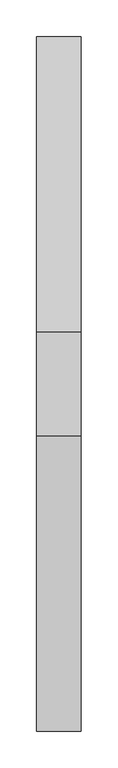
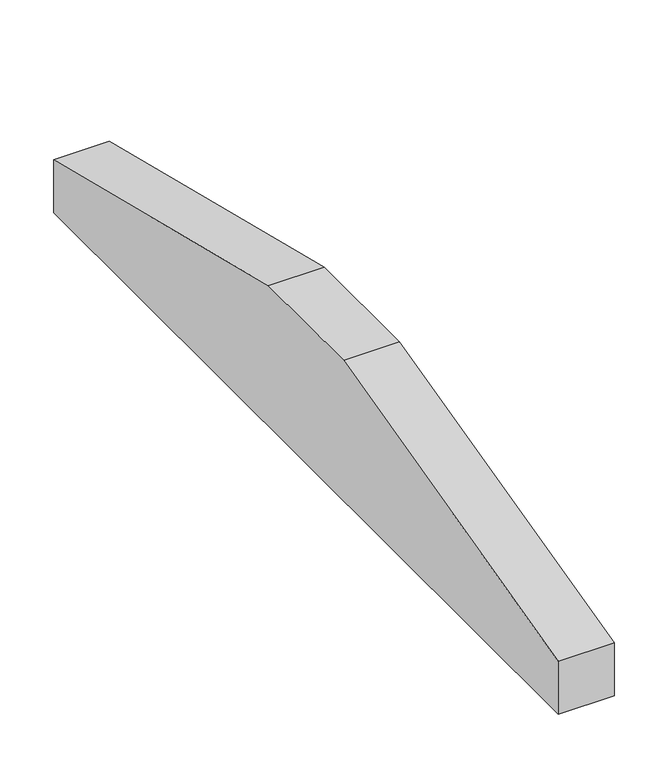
"""IFC4 building model written with IfcOpenShell, lengths in millimetres: proxy geometry, Modelos genéricos 171 : Modelos genéricos 144."""

from ifc_helpers import new_model, si_unit, frame, origin, place, context, project, spatial, polyline, outline, extrude, source, transform, mapped, element, save


def generic_models_1498e869(model_context):
    return source(origin(), model_context, "Body", "SweptSolid", [
        extrude(outline(polyline([(2018.6238165, 4209.7515316), (2418.6238165, 4110.0203305), (2418.6238165, 4049.7515316), (1478.6238165, 4049.7515316), (1478.6238165, 4110.0203305), (1878.6238165, 4209.7515316), (2018.6238165, 4209.7515316)])), frame((66163.4472467, 0.0, 0.0), z_axis=(1.0, 0.0, 0.0), x_axis=(0.0, 1.0, 0.0)), (0.0, 0.0, 1.0), 60.0),
    ])


if __name__ == "__main__":
    model = new_model("IFC4")
    model_context = context("Model", 3, world=origin())
    ifc_project = project(units=[si_unit("LENGTHUNIT", "METRE", prefix="MILLI")], contexts=[model_context])
    site = spatial("IfcSite", under=ifc_project)
    building = spatial("IfcBuilding", under=site)
    placement = place(None, origin())
    generic_models_shape = generic_models_1498e869(model_context)
    element("IfcBuildingElementProxy", 1, Name="Modelos genéricos 171 : Modelos genéricos 144", ObjectType="Modelos genéricos 171 : Modelos genéricos 144", at=placement, inside=building, context=model_context, shape_type="MappedRepresentation", body=[
        mapped(generic_models_shape, transform((0.0, 0.0, 0.0), x_axis=(1.0, 0.0, 0.0), y_axis=(0.0, 1.0, 0.0), z_axis=(0.0, 0.0, 1.0))),
    ])
    save(model, "model.ifc")
